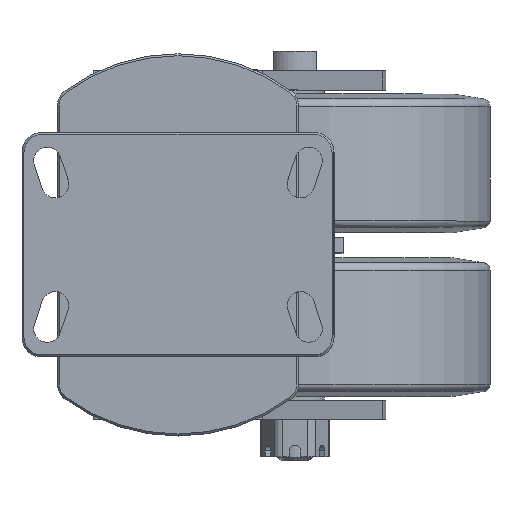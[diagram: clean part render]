
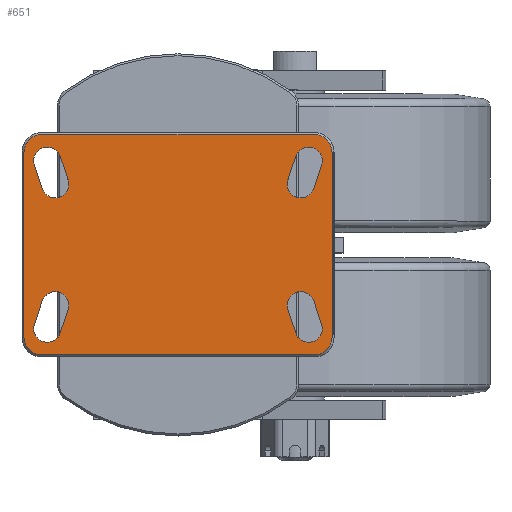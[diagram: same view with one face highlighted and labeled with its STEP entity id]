
A CAD part, top view. The second image highlights one B-rep face of the part: STEP entity #651.
In plain terms, the highlighted planar face has unit normal (0, 0, 1).
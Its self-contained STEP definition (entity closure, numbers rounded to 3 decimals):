
#651=ADVANCED_FACE('',(#1510,#1511,#1512,#1513,#1514),#1012,.T.);
#1012=PLANE('',#7363);
#1510=FACE_BOUND('',#1661,.T.);
#1511=FACE_BOUND('',#1662,.T.);
#1512=FACE_BOUND('',#1663,.T.);
#1513=FACE_BOUND('',#1664,.T.);
#1514=FACE_BOUND('',#1665,.T.);
#1661=EDGE_LOOP('',(#3586,#3587,#3588,#3589,#3590,#3591,#3592,#3593));
#1662=EDGE_LOOP('',(#3594,#3595,#3596,#3597));
#1663=EDGE_LOOP('',(#3598,#3599,#3600,#3601));
#1664=EDGE_LOOP('',(#3602,#3603,#3604,#3605));
#1665=EDGE_LOOP('',(#3606,#3607,#3608,#3609));
#2129=LINE('',#10650,#2657);
#2132=LINE('',#10658,#2660);
#2135=LINE('',#10666,#2663);
#2138=LINE('',#10674,#2666);
#2142=LINE('',#10690,#2670);
#2145=LINE('',#10699,#2673);
#2148=LINE('',#10705,#2676);
#2153=LINE('',#10720,#2681);
#2156=LINE('',#10729,#2684);
#2161=LINE('',#10744,#2689);
#2163=LINE('',#10753,#2691);
#2164=LINE('',#10757,#2692);
#2657=VECTOR('',#8267,1.);
#2660=VECTOR('',#8276,1.);
#2663=VECTOR('',#8285,1.);
#2666=VECTOR('',#8294,1.);
#2670=VECTOR('',#8310,1.);
#2673=VECTOR('',#8321,1.);
#2676=VECTOR('',#8326,1.);
#2681=VECTOR('',#8339,1.);
#2684=VECTOR('',#8350,1.);
#2689=VECTOR('',#8363,1.);
#2691=VECTOR('',#8375,1.);
#2692=VECTOR('',#8378,1.);
#3586=ORIENTED_EDGE('',*,*,#6173,.T.);
#3587=ORIENTED_EDGE('',*,*,#6171,.T.);
#3588=ORIENTED_EDGE('',*,*,#6169,.T.);
#3589=ORIENTED_EDGE('',*,*,#6167,.T.);
#3590=ORIENTED_EDGE('',*,*,#6165,.T.);
#3591=ORIENTED_EDGE('',*,*,#6163,.T.);
#3592=ORIENTED_EDGE('',*,*,#6161,.T.);
#3593=ORIENTED_EDGE('',*,*,#6174,.T.);
#3594=ORIENTED_EDGE('',*,*,#6200,.F.);
#3595=ORIENTED_EDGE('',*,*,#6204,.F.);
#3596=ORIENTED_EDGE('',*,*,#6207,.F.);
#3597=ORIENTED_EDGE('',*,*,#6209,.F.);
#3598=ORIENTED_EDGE('',*,*,#6188,.F.);
#3599=ORIENTED_EDGE('',*,*,#6192,.F.);
#3600=ORIENTED_EDGE('',*,*,#6195,.F.);
#3601=ORIENTED_EDGE('',*,*,#6197,.F.);
#3602=ORIENTED_EDGE('',*,*,#6176,.F.);
#3603=ORIENTED_EDGE('',*,*,#6180,.F.);
#3604=ORIENTED_EDGE('',*,*,#6183,.F.);
#3605=ORIENTED_EDGE('',*,*,#6185,.F.);
#3606=ORIENTED_EDGE('',*,*,#6211,.F.);
#3607=ORIENTED_EDGE('',*,*,#6212,.F.);
#3608=ORIENTED_EDGE('',*,*,#6213,.F.);
#3609=ORIENTED_EDGE('',*,*,#6214,.F.);
#5420=VERTEX_POINT('',#10647);
#5421=VERTEX_POINT('',#10649);
#5422=VERTEX_POINT('',#10653);
#5423=VERTEX_POINT('',#10657);
#5424=VERTEX_POINT('',#10661);
#5425=VERTEX_POINT('',#10665);
#5426=VERTEX_POINT('',#10669);
#5427=VERTEX_POINT('',#10673);
#5428=VERTEX_POINT('',#10679);
#5430=VERTEX_POINT('',#10682);
#5432=VERTEX_POINT('',#10688);
#5434=VERTEX_POINT('',#10694);
#5436=VERTEX_POINT('',#10703);
#5438=VERTEX_POINT('',#10706);
#5440=VERTEX_POINT('',#10712);
#5442=VERTEX_POINT('',#10718);
#5444=VERTEX_POINT('',#10727);
#5446=VERTEX_POINT('',#10730);
#5448=VERTEX_POINT('',#10736);
#5450=VERTEX_POINT('',#10742);
#5452=VERTEX_POINT('',#10751);
#5453=VERTEX_POINT('',#10752);
#5454=VERTEX_POINT('',#10754);
#5455=VERTEX_POINT('',#10756);
#6161=EDGE_CURVE('',#5420,#5421,#2129,.T.);
#6163=EDGE_CURVE('',#5422,#5420,#6996,.T.);
#6165=EDGE_CURVE('',#5423,#5422,#2132,.T.);
#6167=EDGE_CURVE('',#5424,#5423,#6997,.T.);
#6169=EDGE_CURVE('',#5425,#5424,#2135,.T.);
#6171=EDGE_CURVE('',#5426,#5425,#6998,.T.);
#6173=EDGE_CURVE('',#5427,#5426,#2138,.T.);
#6174=EDGE_CURVE('',#5421,#5427,#6999,.T.);
#6176=EDGE_CURVE('',#5428,#5430,#7000,.T.);
#6180=EDGE_CURVE('',#5432,#5428,#2142,.T.);
#6183=EDGE_CURVE('',#5434,#5432,#7002,.T.);
#6185=EDGE_CURVE('',#5430,#5434,#2145,.T.);
#6188=EDGE_CURVE('',#5436,#5438,#2148,.T.);
#6192=EDGE_CURVE('',#5440,#5436,#7004,.T.);
#6195=EDGE_CURVE('',#5442,#5440,#2153,.T.);
#6197=EDGE_CURVE('',#5438,#5442,#7006,.T.);
#6200=EDGE_CURVE('',#5444,#5446,#2156,.T.);
#6204=EDGE_CURVE('',#5448,#5444,#7008,.T.);
#6207=EDGE_CURVE('',#5450,#5448,#2161,.T.);
#6209=EDGE_CURVE('',#5446,#5450,#7010,.T.);
#6211=EDGE_CURVE('',#5452,#5453,#7012,.T.);
#6212=EDGE_CURVE('',#5454,#5452,#2163,.T.);
#6213=EDGE_CURVE('',#5455,#5454,#7013,.T.);
#6214=EDGE_CURVE('',#5453,#5455,#2164,.T.);
#6996=CIRCLE('',#7326,9.);
#6997=CIRCLE('',#7329,9.);
#6998=CIRCLE('',#7332,9.);
#6999=CIRCLE('',#7335,9.);
#7000=CIRCLE('',#7337,7.);
#7002=CIRCLE('',#7341,7.);
#7004=CIRCLE('',#7346,7.);
#7006=CIRCLE('',#7350,7.);
#7008=CIRCLE('',#7354,7.);
#7010=CIRCLE('',#7358,7.);
#7012=CIRCLE('',#7361,7.);
#7013=CIRCLE('',#7362,7.);
#7326=AXIS2_PLACEMENT_3D('',#10654,#8271,#8272);
#7329=AXIS2_PLACEMENT_3D('',#10662,#8280,#8281);
#7332=AXIS2_PLACEMENT_3D('',#10670,#8289,#8290);
#7335=AXIS2_PLACEMENT_3D('',#10676,#8297,#8298);
#7337=AXIS2_PLACEMENT_3D('',#10681,#8302,#8303);
#7341=AXIS2_PLACEMENT_3D('',#10696,#8315,#8316);
#7346=AXIS2_PLACEMENT_3D('',#10714,#8332,#8333);
#7350=AXIS2_PLACEMENT_3D('',#10723,#8343,#8344);
#7354=AXIS2_PLACEMENT_3D('',#10738,#8356,#8357);
#7358=AXIS2_PLACEMENT_3D('',#10747,#8367,#8368);
#7361=AXIS2_PLACEMENT_3D('',#10750,#8373,#8374);
#7362=AXIS2_PLACEMENT_3D('',#10755,#8376,#8377);
#7363=AXIS2_PLACEMENT_3D('',#10758,#8379,#8380);
#8267=DIRECTION('',(1.,0.,0.));
#8271=DIRECTION('',(0.,0.,1.));
#8272=DIRECTION('',(-1.,0.,0.));
#8276=DIRECTION('',(0.,-1.,0.));
#8280=DIRECTION('',(0.,0.,1.));
#8281=DIRECTION('',(0.,1.,0.));
#8285=DIRECTION('',(-1.,0.,0.));
#8289=DIRECTION('',(0.,0.,1.));
#8290=DIRECTION('',(1.,0.,0.));
#8294=DIRECTION('',(0.,1.,0.));
#8297=DIRECTION('',(0.,0.,1.));
#8298=DIRECTION('',(0.,-1.,0.));
#8302=DIRECTION('',(0.,0.,1.));
#8303=DIRECTION('',(-0.949,-0.316,0.));
#8310=DIRECTION('',(0.316,-0.949,0.));
#8315=DIRECTION('',(0.,0.,1.));
#8316=DIRECTION('',(0.949,0.316,0.));
#8321=DIRECTION('',(-0.316,0.949,0.));
#8326=DIRECTION('',(0.316,0.949,0.));
#8332=DIRECTION('',(0.,0.,1.));
#8333=DIRECTION('',(-0.949,0.316,0.));
#8339=DIRECTION('',(-0.316,-0.949,0.));
#8343=DIRECTION('',(0.,0.,1.));
#8344=DIRECTION('',(0.949,-0.316,0.));
#8350=DIRECTION('',(-0.316,-0.949,0.));
#8356=DIRECTION('',(0.,0.,1.));
#8357=DIRECTION('',(0.949,-0.316,0.));
#8363=DIRECTION('',(0.316,0.949,0.));
#8367=DIRECTION('',(0.,0.,1.));
#8368=DIRECTION('',(-0.949,0.316,0.));
#8373=DIRECTION('',(0.,0.,1.));
#8374=DIRECTION('',(0.949,0.316,0.));
#8375=DIRECTION('',(-0.316,0.949,0.));
#8376=DIRECTION('',(0.,0.,1.));
#8377=DIRECTION('',(-0.949,-0.316,0.));
#8378=DIRECTION('',(0.316,-0.949,0.));
#8379=DIRECTION('',(0.,0.,1.));
#8380=DIRECTION('',(1.,0.,0.));
#10647=CARTESIAN_POINT('',(-70.,-56.5,0.));
#10649=CARTESIAN_POINT('',(70.,-56.5,0.));
#10650=CARTESIAN_POINT('',(-70.,-56.5,0.));
#10653=CARTESIAN_POINT('',(-79.,-47.5,0.));
#10654=CARTESIAN_POINT('',(-70.,-47.5,0.));
#10657=CARTESIAN_POINT('',(-79.,47.5,0.));
#10658=CARTESIAN_POINT('',(-79.,47.5,0.));
#10661=CARTESIAN_POINT('',(-70.,56.5,0.));
#10662=CARTESIAN_POINT('',(-70.,47.5,0.));
#10665=CARTESIAN_POINT('',(70.,56.5,0.));
#10666=CARTESIAN_POINT('',(70.,56.5,0.));
#10669=CARTESIAN_POINT('',(79.,47.5,0.));
#10670=CARTESIAN_POINT('',(70.,47.5,0.));
#10673=CARTESIAN_POINT('',(79.,-47.5,0.));
#10674=CARTESIAN_POINT('',(79.,-47.5,0.));
#10676=CARTESIAN_POINT('',(70.,-47.5,0.));
#10679=CARTESIAN_POINT('',(60.359,-45.214,0.));
#10681=CARTESIAN_POINT('',(67.,-43.,0.));
#10682=CARTESIAN_POINT('',(73.641,-40.786,0.));
#10688=CARTESIAN_POINT('',(56.359,-33.214,0.));
#10690=CARTESIAN_POINT('',(56.359,-33.214,0.));
#10694=CARTESIAN_POINT('',(69.641,-28.786,0.));
#10696=CARTESIAN_POINT('',(63.,-31.,0.));
#10699=CARTESIAN_POINT('',(73.641,-40.786,0.));
#10703=CARTESIAN_POINT('',(69.641,28.786,0.));
#10705=CARTESIAN_POINT('',(69.641,28.786,0.));
#10706=CARTESIAN_POINT('',(73.641,40.786,0.));
#10712=CARTESIAN_POINT('',(56.359,33.214,0.));
#10714=CARTESIAN_POINT('',(63.,31.,0.));
#10718=CARTESIAN_POINT('',(60.359,45.214,0.));
#10720=CARTESIAN_POINT('',(60.359,45.214,0.));
#10723=CARTESIAN_POINT('',(67.,43.,0.));
#10727=CARTESIAN_POINT('',(-69.641,-28.786,0.));
#10729=CARTESIAN_POINT('',(-69.641,-28.786,0.));
#10730=CARTESIAN_POINT('',(-73.641,-40.786,0.));
#10736=CARTESIAN_POINT('',(-56.359,-33.214,0.));
#10738=CARTESIAN_POINT('',(-63.,-31.,0.));
#10742=CARTESIAN_POINT('',(-60.359,-45.214,0.));
#10744=CARTESIAN_POINT('',(-60.359,-45.214,0.));
#10747=CARTESIAN_POINT('',(-67.,-43.,0.));
#10750=CARTESIAN_POINT('',(-67.,43.,0.));
#10751=CARTESIAN_POINT('',(-60.359,45.214,0.));
#10752=CARTESIAN_POINT('',(-73.641,40.786,0.));
#10753=CARTESIAN_POINT('',(-56.359,33.214,0.));
#10754=CARTESIAN_POINT('',(-56.359,33.214,0.));
#10755=CARTESIAN_POINT('',(-63.,31.,0.));
#10756=CARTESIAN_POINT('',(-69.641,28.786,0.));
#10757=CARTESIAN_POINT('',(-73.641,40.786,0.));
#10758=CARTESIAN_POINT('',(0.,0.,0.));
